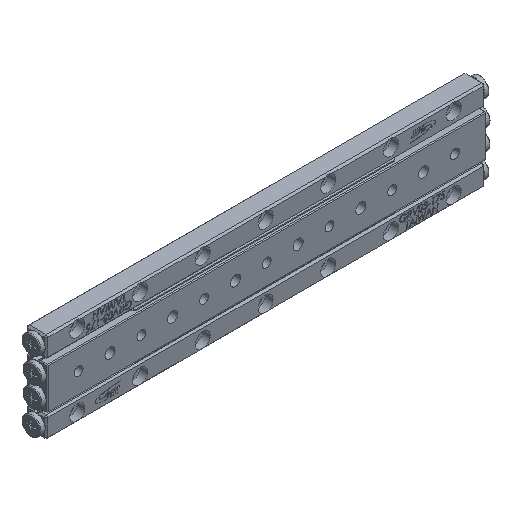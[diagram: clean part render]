
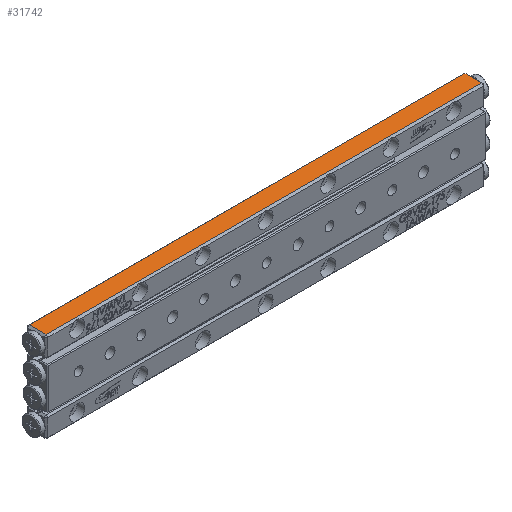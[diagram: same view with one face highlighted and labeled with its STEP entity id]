
A CAD part, isometric view. The second image highlights one B-rep face of the part: STEP entity #31742.
In plain terms, the highlighted planar face has unit normal (0, 0, 1) as drawn and (0, 0, -1) by its records, which use the part's own axes.
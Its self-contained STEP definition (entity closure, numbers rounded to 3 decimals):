
#2277 = EDGE_CURVE ( 'NONE', #21487, #31941, #35827, .T. ) ;
#2621 = CARTESIAN_POINT ( 'NONE',  ( 87.5, 4., 0. ) ) ;
#5350 = VERTEX_POINT ( 'NONE', #25656 ) ;
#6066 = LINE ( 'NONE', #31497, #35307 ) ;
#6643 = EDGE_CURVE ( 'NONE', #18180, #21487, #21217, .T. ) ;
#6760 = ORIENTED_EDGE ( 'NONE', *, *, #25598, .T. ) ;
#7954 = CARTESIAN_POINT ( 'NONE',  ( 87.5, 3.3, 0. ) ) ;
#8089 = CARTESIAN_POINT ( 'NONE',  ( 86.8, 3.3, 0. ) ) ;
#8475 = AXIS2_PLACEMENT_3D ( 'NONE', #2621, #26839, #11393 ) ;
#8599 = CARTESIAN_POINT ( 'NONE',  ( -86.8, 4., 0. ) ) ;
#9293 = EDGE_CURVE ( 'NONE', #31941, #5350, #6066, .T. ) ;
#11393 = DIRECTION ( 'NONE',  ( 1., 0., 0. ) ) ;
#15210 = ORIENTED_EDGE ( 'NONE', *, *, #6643, .T. ) ;
#16622 = CARTESIAN_POINT ( 'NONE',  ( -86.8, 3.3, 0. ) ) ;
#18180 = VERTEX_POINT ( 'NONE', #34303 ) ;
#19445 = ORIENTED_EDGE ( 'NONE', *, *, #9293, .T. ) ;
#20374 = DIRECTION ( 'NONE',  ( 1., 0., 0. ) ) ;
#21217 = LINE ( 'NONE', #8599, #39344 ) ;
#21383 = VECTOR ( 'NONE', #20374, 1000. ) ;
#21487 = VERTEX_POINT ( 'NONE', #16622 ) ;
#25598 = EDGE_CURVE ( 'NONE', #5350, #18180, #32733, .T. ) ;
#25656 = CARTESIAN_POINT ( 'NONE',  ( 86.8, -3.3, 0. ) ) ;
#26839 = DIRECTION ( 'NONE',  ( 0., 0., 1. ) ) ;
#27024 = DIRECTION ( 'NONE',  ( -1., 0., 0. ) ) ;
#30092 = VECTOR ( 'NONE', #27024, 1000. ) ;
#30686 = PLANE ( 'NONE',  #8475 ) ;
#31497 = CARTESIAN_POINT ( 'NONE',  ( 86.8, -4., 0. ) ) ;
#31685 = EDGE_LOOP ( 'NONE', ( #6760, #15210, #31710, #19445 ) ) ;
#31710 = ORIENTED_EDGE ( 'NONE', *, *, #2277, .T. ) ;
#31742 = ADVANCED_FACE ( 'NONE', ( #39259 ), #30686, .F. ) ;
#31941 = VERTEX_POINT ( 'NONE', #8089 ) ;
#32733 = LINE ( 'NONE', #36194, #30092 ) ;
#33017 = DIRECTION ( 'NONE',  ( 0., 1., 0. ) ) ;
#34303 = CARTESIAN_POINT ( 'NONE',  ( -86.8, -3.3, 0. ) ) ;
#35307 = VECTOR ( 'NONE', #40235, 1000. ) ;
#35827 = LINE ( 'NONE', #7954, #21383 ) ;
#36194 = CARTESIAN_POINT ( 'NONE',  ( 87.5, -3.3, 0. ) ) ;
#39259 = FACE_OUTER_BOUND ( 'NONE', #31685, .T. ) ;
#39344 = VECTOR ( 'NONE', #33017, 1000. ) ;
#40235 = DIRECTION ( 'NONE',  ( 0., -1., 0. ) ) ;
